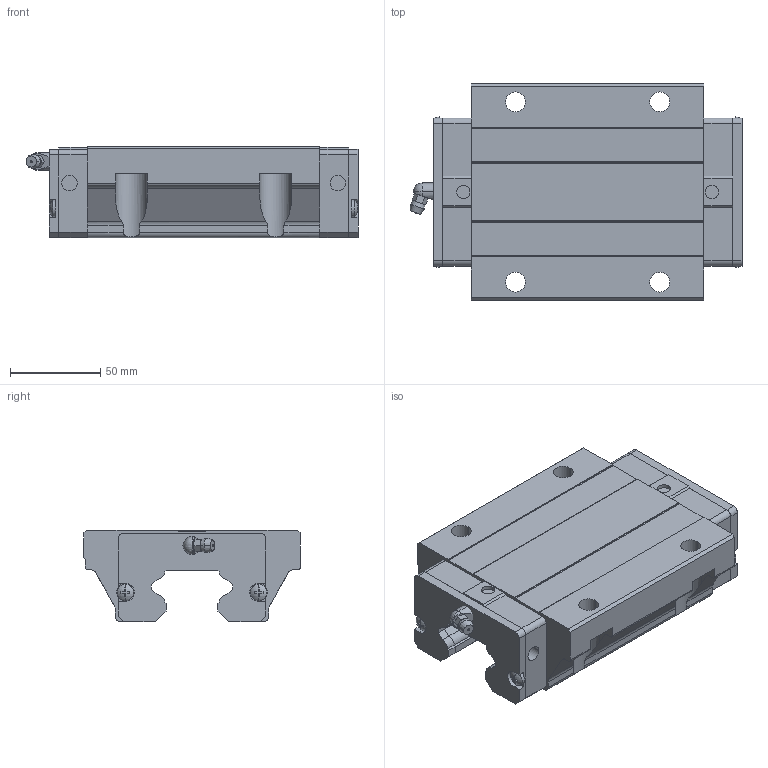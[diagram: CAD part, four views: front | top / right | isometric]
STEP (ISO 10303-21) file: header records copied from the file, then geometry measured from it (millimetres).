
FILE_DESCRIPTION(('starvars output'),'2;1');
FILE_NAME('cv20190626223053000041669.stp','22:30:53 2019/06/26',( 'Thomas Industrial Network Germany GmbH'),( 'Thomas Industrial Network Germany GmbH'),'unknown preprocess','ACIS' ,'unknown authorization');
FILE_SCHEMA(('CONFIG_CONTROL_DESIGN {UNKNOWN IMPLEMENTATION LEVEL}'));
Length unit declared in the file: millimetre
Products named in the file (10): PRODUCT_ID_1; PRODUCT_ID_2; PRODUCT_ID_3; PRODUCT_ID_4; PRODUCT_ID_5; PRODUCT_ID_6; PRODUCT_ID_7; PRODUCT_ID_8; PRODUCT_ID_9; PRODUCT_ID_10
Bounding box: 184.1 x 120 x 50.8 mm (x, y, z)
Volume: 658887.9 mm3; surface area: 102858.6 mm2
Topology: 10 solids, 10 shells, 417 faces, 1112 edges, 721 vertices
Faces by surface type: plane 270, cylinder 89, cone 46, sphere 12
Entity records: 12639 total; most frequent: CARTESIAN_POINT 2225, ORIENTED_EDGE 2216, DIRECTION 1724, EDGE_CURVE 1108, VERTEX_POINT 721, VECTOR 692, LINE 692, AXIS2_PLACEMENT_3D 516
